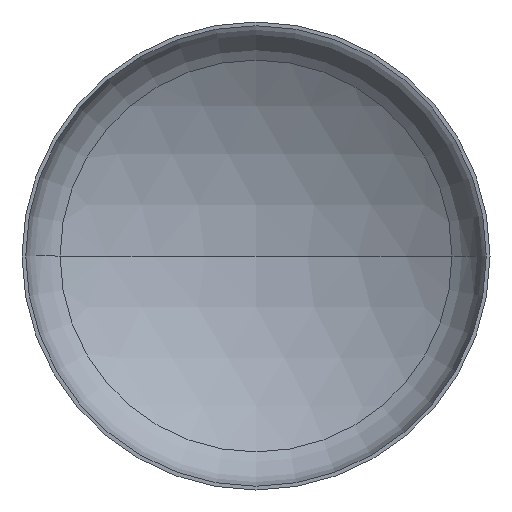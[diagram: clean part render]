
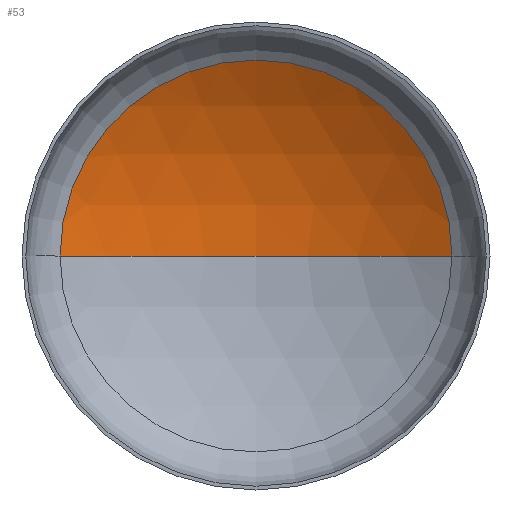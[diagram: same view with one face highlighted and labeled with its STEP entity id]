
A CAD part, front view. The second image highlights one B-rep face of the part: STEP entity #53.
In plain terms, the highlighted spherical face has radius 4000 mm.
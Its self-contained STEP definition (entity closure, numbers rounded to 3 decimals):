
#7 = EDGE_CURVE ( 'NONE', #61, #342, #364, .T. ) ;
#9 = EDGE_CURVE ( 'NONE', #74, #61, #290, .T. ) ;
#12 = EDGE_CURVE ( 'NONE', #74, #342, #198, .T. ) ;
#14 = CARTESIAN_POINT ( 'NONE',  ( 0., -2632.599, 0. ) ) ;
#19 = CARTESIAN_POINT ( 'NONE',  ( 0., -2632.599, 0. ) ) ;
#27 = EDGE_LOOP ( 'NONE', ( #99, #385, #174 ) ) ;
#53 = ADVANCED_FACE ( 'NONE', ( #254 ), #338, .F. ) ;
#58 = CARTESIAN_POINT ( 'NONE',  ( 2092.879, 776.192, 0. ) ) ;
#59 = DIRECTION ( 'NONE',  ( -1., 0., 0. ) ) ;
#61 = VERTEX_POINT ( 'NONE', #58 ) ;
#74 = VERTEX_POINT ( 'NONE', #284 ) ;
#96 = DIRECTION ( 'NONE',  ( 0., 0., -1. ) ) ;
#99 = ORIENTED_EDGE ( 'NONE', *, *, #12, .F. ) ;
#107 = AXIS2_PLACEMENT_3D ( 'NONE', #19, #96, #59 ) ;
#155 = CARTESIAN_POINT ( 'NONE',  ( -2092.879, 776.192, 0. ) ) ;
#174 = ORIENTED_EDGE ( 'NONE', *, *, #7, .T. ) ;
#192 = DIRECTION ( 'NONE',  ( -1., 0., 0. ) ) ;
#198 = CIRCLE ( 'NONE', #350, 4000. ) ;
#206 = CARTESIAN_POINT ( 'NONE',  ( 0., 776.192, 0. ) ) ;
#244 = DIRECTION ( 'NONE',  ( 0., -1., 0. ) ) ;
#254 = FACE_OUTER_BOUND ( 'NONE', #27, .T. ) ;
#262 = DIRECTION ( 'NONE',  ( 0., 0., -1. ) ) ;
#273 = DIRECTION ( 'NONE',  ( 1., 0., 0. ) ) ;
#284 = CARTESIAN_POINT ( 'NONE',  ( 0., 1367.401, 0. ) ) ;
#290 = CIRCLE ( 'NONE', #334, 4000. ) ;
#307 = CARTESIAN_POINT ( 'NONE',  ( 0., -2632.599, 0. ) ) ;
#313 = AXIS2_PLACEMENT_3D ( 'NONE', #206, #244, #273 ) ;
#329 = DIRECTION ( 'NONE',  ( 0., 0., 1. ) ) ;
#334 = AXIS2_PLACEMENT_3D ( 'NONE', #307, #262, #192 ) ;
#338 = SPHERICAL_SURFACE ( 'NONE', #107, 4000. ) ;
#342 = VERTEX_POINT ( 'NONE', #155 ) ;
#350 = AXIS2_PLACEMENT_3D ( 'NONE', #14, #329, #366 ) ;
#364 = CIRCLE ( 'NONE', #313, 2092.879 ) ;
#366 = DIRECTION ( 'NONE',  ( 1., 0., 0. ) ) ;
#385 = ORIENTED_EDGE ( 'NONE', *, *, #9, .T. ) ;
